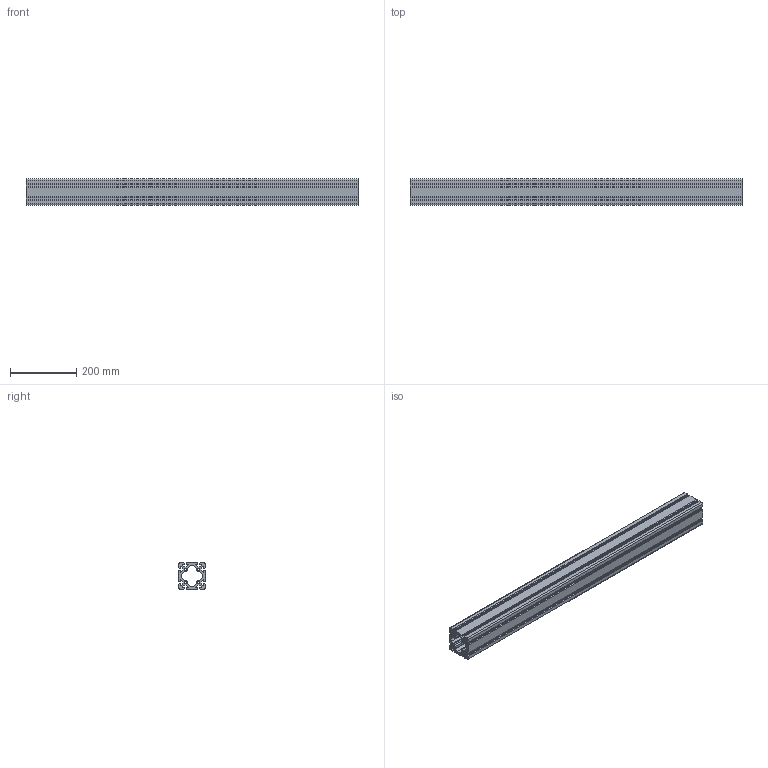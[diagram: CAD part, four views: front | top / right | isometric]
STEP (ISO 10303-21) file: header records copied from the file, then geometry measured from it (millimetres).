
FILE_DESCRIPTION (( 'STEP AP203' ), '1' );
FILE_NAME ('10428_PRO_80x80.STEP', '2016-03-02T08:10:54', ( '' ), ( '' ), 'SwSTEP 2.0', 'SolidWorks 2015', '' );
FILE_SCHEMA (( 'CONFIG_CONTROL_DESIGN' ));
Length unit declared in the file: millimetre
Products named in the file (1): 10428_PRO_80x80
Bounding box: 1000 x 80 x 80 mm (x, y, z)
Volume: 2691920.4 mm3; surface area: 914494.9 mm2
Topology: 1 solids, 1 shells, 207 faces, 615 edges, 410 vertices
Faces by surface type: plane 106, cylinder 101
Entity records: 7088 total; most frequent: CARTESIAN_POINT 1233, DIRECTION 1233, ORIENTED_EDGE 1230, EDGE_CURVE 615, LINE 413, VECTOR 413, AXIS2_PLACEMENT_3D 410, VERTEX_POINT 410
